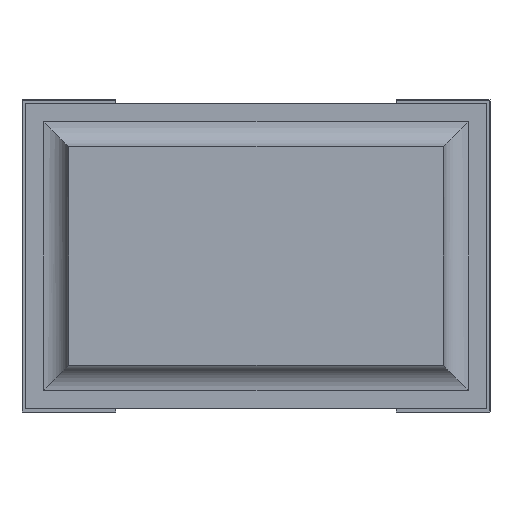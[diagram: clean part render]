
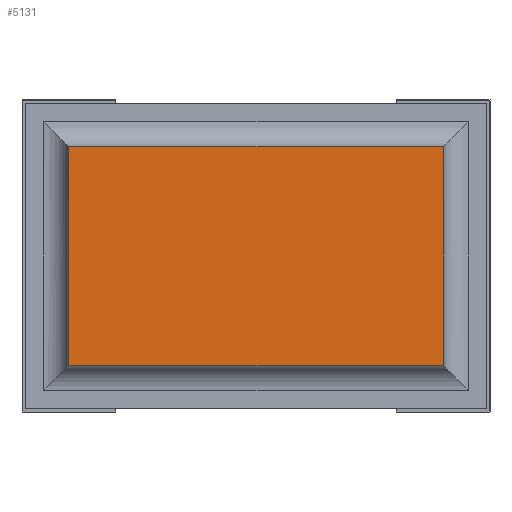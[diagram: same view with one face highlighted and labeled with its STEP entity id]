
A CAD part, front view. The second image highlights one B-rep face of the part: STEP entity #5131.
In plain terms, the highlighted planar face has unit normal (0, -1, 0).
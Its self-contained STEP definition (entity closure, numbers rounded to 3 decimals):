
#134=PLANE('',#5473);
#373=FACE_OUTER_BOUND('',#658,.T.);
#658=EDGE_LOOP('',(#3727,#3728,#3729,#3730));
#1001=LINE('',#7499,#1657);
#1004=LINE('',#7505,#1660);
#1005=LINE('',#7508,#1661);
#1006=LINE('',#7509,#1662);
#1657=VECTOR('',#6053,10.);
#1660=VECTOR('',#6058,10.);
#1661=VECTOR('',#6061,10.);
#1662=VECTOR('',#6062,10.);
#2327=VERTEX_POINT('',#7495);
#2328=VERTEX_POINT('',#7497);
#2330=VERTEX_POINT('',#7503);
#2331=VERTEX_POINT('',#7507);
#2871=EDGE_CURVE('',#2327,#2328,#1001,.T.);
#2874=EDGE_CURVE('',#2330,#2328,#1004,.T.);
#2875=EDGE_CURVE('',#2331,#2330,#1005,.T.);
#2876=EDGE_CURVE('',#2327,#2331,#1006,.T.);
#3727=ORIENTED_EDGE('',*,*,#2874,.F.);
#3728=ORIENTED_EDGE('',*,*,#2875,.F.);
#3729=ORIENTED_EDGE('',*,*,#2876,.F.);
#3730=ORIENTED_EDGE('',*,*,#2871,.T.);
#5131=ADVANCED_FACE('',(#373),#134,.T.);
#5473=AXIS2_PLACEMENT_3D('',#7506,#6059,#6060);
#6053=DIRECTION('',(0.,0.,-1.));
#6058=DIRECTION('',(-1.,0.,0.));
#6059=DIRECTION('center_axis',(0.,-1.,0.));
#6060=DIRECTION('ref_axis',(0.,0.,-1.));
#6061=DIRECTION('',(0.,0.,-1.));
#6062=DIRECTION('',(1.,0.,0.));
#7495=CARTESIAN_POINT('',(0.075,0.,0.425));
#7497=CARTESIAN_POINT('',(0.075,0.,0.075));
#7499=CARTESIAN_POINT('',(0.075,0.,0.425));
#7503=CARTESIAN_POINT('',(0.675,0.,0.075));
#7505=CARTESIAN_POINT('',(0.675,0.,0.075));
#7506=CARTESIAN_POINT('Origin',(0.676,0.,0.25));
#7507=CARTESIAN_POINT('',(0.675,0.,0.425));
#7508=CARTESIAN_POINT('',(0.675,0.,0.425));
#7509=CARTESIAN_POINT('',(0.075,0.,0.425));
